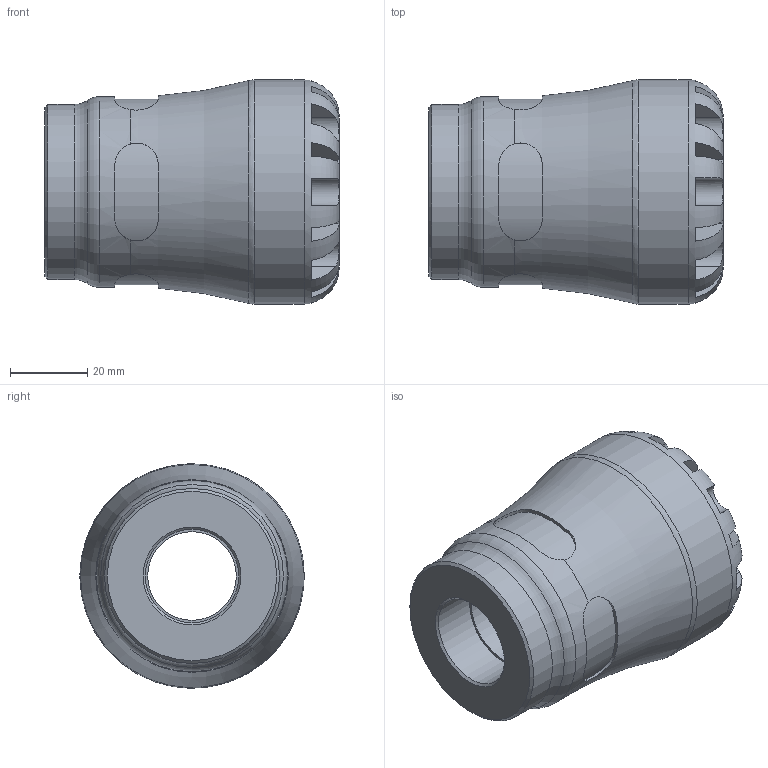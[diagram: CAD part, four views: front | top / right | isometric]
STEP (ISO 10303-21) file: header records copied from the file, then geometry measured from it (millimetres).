
FILE_DESCRIPTION(/* description */ ('PLASSON FEMALE ADAPTOR 32x3/4" SERIES 1'),/* implementation_level */ '2;1');
FILE_NAME(/* name */ 'C:\Dropbox\KIMPROJECTS-Inventor\99-16-3568-Processing\S1\27.01.19\1003G\1003G0032007_1903G0032007.ipt.stp',/* time_stamp */ '2019-01-27T09:12:05+02:00',/* author */ ('KIM'),/* organization */ (''),/* preprocessor_version */ 'ST-DEVELOPER v15.6',/* originating_system */ 'Autodesk Inventor 2015',/* authorisation */ '');
FILE_SCHEMA (('AUTOMOTIVE_DESIGN { 1 0 10303 214 3 1 1 }'));
Length unit declared in the file: millimetre
Products named in the file (1): 1003G0032007_1903G0032007
Bounding box: 76 x 58 x 58 mm (x, y, z)
Volume: 105239.9 mm3; surface area: 24033.7 mm2
Topology: 1 solids, 1 shells, 104 faces, 265 edges, 166 vertices
Faces by surface type: plane 61, cylinder 35, torus 5, cone 3
Full cylindrical faces by diameter (mm): 22.911 x1, 24.117 x1, 26.667 x1, 32 x1, 45.24 x1, 49.3 x1, 58 x1
Entity records: 3858 total; most frequent: CARTESIAN_POINT 1471, ORIENTED_EDGE 492, DIRECTION 478, EDGE_CURVE 246, AXIS2_PLACEMENT_3D 199, VERTEX_POINT 162, EDGE_LOOP 124, FACE_OUTER_BOUND 104
